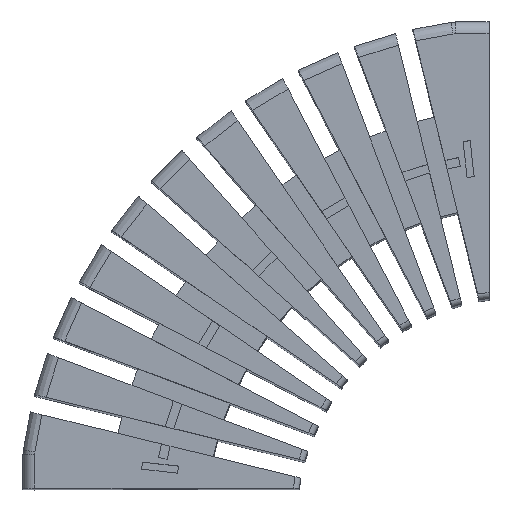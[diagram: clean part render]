
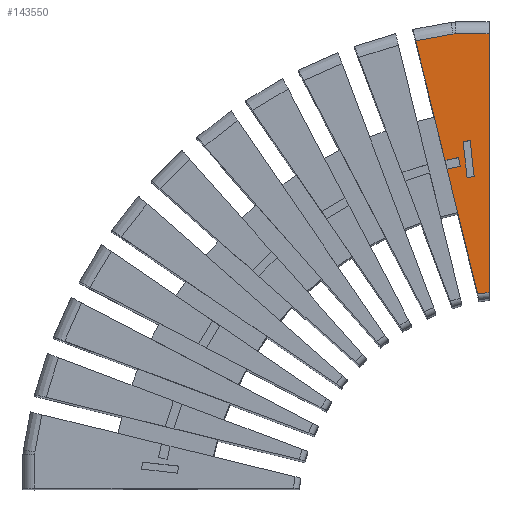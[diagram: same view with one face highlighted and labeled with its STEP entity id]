
A CAD part, top view. The second image highlights one B-rep face of the part: STEP entity #143550.
In plain terms, the highlighted free-form (B-spline) face has degree [1, 1] with [2, 2] control points.
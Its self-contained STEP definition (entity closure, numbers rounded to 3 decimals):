
#22220 = CARTESIAN_POINT ('', (76.72, 32.747, 187.44));
#22230 = VERTEX_POINT ('', #22220);
#22520 = CARTESIAN_POINT ('', (71.564, 53.837, 187.44));
#22530 = VERTEX_POINT ('', #22520);
#22540 = CARTESIAN_POINT ('', (76.72, 32.747, 187.44));
#22550 = CARTESIAN_POINT ('', (71.564, 53.837, 187.44));
#22560 = B_SPLINE_CURVE_WITH_KNOTS ('', 1, (#22540, #22550), .UNSPECIFIED., .F., .U., (2, 2), (4.021, 4.484), .UNSPECIFIED.);
#22570 = EDGE_CURVE ('', #22230, #22530, #22560, .T.);
#22730 = CARTESIAN_POINT ('', (71.207, 55.295, 187.44));
#22740 = VERTEX_POINT ('', #22730);
#22800 = CARTESIAN_POINT ('', (66.28, 75.452, 187.44));
#22810 = VERTEX_POINT ('', #22800);
#22820 = CARTESIAN_POINT ('', (71.207, 55.295, 187.44));
#22830 = CARTESIAN_POINT ('', (66.28, 75.452, 187.44));
#22840 = B_SPLINE_CURVE_WITH_KNOTS ('', 1, (#22820, #22830), .UNSPECIFIED., .F., .U., (2, 2), (4.516, 4.957), .UNSPECIFIED.);
#22850 = EDGE_CURVE ('', #22740, #22810, #22840, .T.);
#27040 = CARTESIAN_POINT ('', (78.648, 76.648, 187.44));
#27050 = VERTEX_POINT ('', #27040);
#27400 = CARTESIAN_POINT ('', (78.648, 33.005, 187.44));
#27410 = VERTEX_POINT ('', #27400);
#27420 = CARTESIAN_POINT ('', (78.648, 76.648, 187.44));
#27430 = CARTESIAN_POINT ('', (78.648, 33.005, 187.44));
#27440 = B_SPLINE_CURVE_WITH_KNOTS ('', 1, (#27420, #27430), .UNSPECIFIED., .F., .U., (2, 2), (2.043, 2.978), .UNSPECIFIED.);
#27450 = EDGE_CURVE ('', #27050, #27410, #27440, .T.);
#138030 = CARTESIAN_POINT ('', (72.986, 76.648, 187.44));
#138040 = VERTEX_POINT ('', #138030);
#138110 = CARTESIAN_POINT ('', (72.986, 76.648, 187.44));
#138120 = CARTESIAN_POINT ('', (78.648, 76.648, 187.44));
#138130 = B_SPLINE_CURVE_WITH_KNOTS ('', 1, (#138110, #138120), .UNSPECIFIED., .F., .U., (2, 2), (0., 5.662), .UNSPECIFIED.);
#138140 = EDGE_CURVE ('', #138040, #27050, #138130, .T.);
#138340 = CARTESIAN_POINT ('', (72.551, 76.616, 187.44));
#138350 = VERTEX_POINT ('', #138340);
#138420 = CARTESIAN_POINT ('', (72.551, 76.616, 187.44));
#138430 = CARTESIAN_POINT ('', (72.607, 76.625, 187.44));
#138440 = CARTESIAN_POINT ('', (72.663, 76.631, 187.44));
#138450 = CARTESIAN_POINT ('', (72.719, 76.636, 187.44));
#138460 = CARTESIAN_POINT ('', (72.775, 76.641, 187.44));
#138470 = CARTESIAN_POINT ('', (72.831, 76.645, 187.44));
#138480 = CARTESIAN_POINT ('', (72.888, 76.646, 187.44));
#138490 = CARTESIAN_POINT ('', (72.92, 76.647, 187.44));
#138500 = CARTESIAN_POINT ('', (72.953, 76.648, 187.44));
#138510 = CARTESIAN_POINT ('', (72.986, 76.648, 187.44));
#138520 = B_SPLINE_CURVE_WITH_KNOTS ('', 3, (#138420, #138430, #138440, #138450, #138460, #138470, #138480, #138490, #138500, #138510), .UNSPECIFIED., .F., .U., (4, 3, 3, 4), (0., 0.169, 0.338, 0.436), .UNSPECIFIED.);
#138530 = EDGE_CURVE ('', #138350, #138040, #138520, .T.);
#140680 = CARTESIAN_POINT ('', (66.28, 75.452, 187.44));
#140690 = CARTESIAN_POINT ('', (66.344, 75.466, 187.44));
#140700 = CARTESIAN_POINT ('', (66.409, 75.481, 187.44));
#140710 = CARTESIAN_POINT ('', (66.474, 75.495, 187.44));
#140720 = CARTESIAN_POINT ('', (66.539, 75.51, 187.44));
#140730 = CARTESIAN_POINT ('', (66.604, 75.524, 187.44));
#140740 = CARTESIAN_POINT ('', (66.669, 75.539, 187.44));
#140750 = CARTESIAN_POINT ('', (66.799, 75.567, 187.44));
#140760 = CARTESIAN_POINT ('', (66.928, 75.596, 187.44));
#140770 = CARTESIAN_POINT ('', (67.058, 75.624, 187.44));
#140780 = CARTESIAN_POINT ('', (67.318, 75.68, 187.44));
#140790 = CARTESIAN_POINT ('', (67.578, 75.734, 187.44));
#140800 = CARTESIAN_POINT ('', (67.839, 75.788, 187.44));
#140810 = CARTESIAN_POINT ('', (68.359, 75.895, 187.44));
#140820 = CARTESIAN_POINT ('', (68.882, 75.997, 187.44));
#140830 = CARTESIAN_POINT ('', (69.404, 76.094, 187.44));
#140840 = CARTESIAN_POINT ('', (70.449, 76.288, 187.44));
#140850 = CARTESIAN_POINT ('', (71.499, 76.462, 187.44));
#140860 = CARTESIAN_POINT ('', (72.551, 76.616, 187.44));
#140870 = B_SPLINE_CURVE_WITH_KNOTS ('', 3, (#140680, #140690, #140700, #140710, #140720, #140730, #140740, #140750, #140760, #140770, #140780, #140790, #140800, #140810, #140820, #140830, #140840, #140850, #140860), .UNSPECIFIED., .F., .U., (4, 3, 3, 3, 3, 3, 4), (3.505, 3.704, 3.904, 4.302, 5.1, 6.694, 9.884), .UNSPECIFIED.);
#140880 = EDGE_CURVE ('', #22810, #138350, #140870, .T.);
#142180 = CARTESIAN_POINT ('', (73.486, 55.78, 187.44));
#142190 = VERTEX_POINT ('', #142180);
#142250 = CARTESIAN_POINT ('', (71.207, 55.295, 187.44));
#142260 = CARTESIAN_POINT ('', (73.486, 55.78, 187.44));
#142270 = B_SPLINE_CURVE_WITH_KNOTS ('', 1, (#142250, #142260), .UNSPECIFIED., .F., .U., (2, 2), (0.406, 1.), .UNSPECIFIED.);
#142280 = EDGE_CURVE ('', #22740, #142190, #142270, .T.);
#142460 = CARTESIAN_POINT ('', (73.799, 54.313, 187.44));
#142470 = VERTEX_POINT ('', #142460);
#142530 = CARTESIAN_POINT ('', (73.486, 55.78, 187.44));
#142540 = CARTESIAN_POINT ('', (73.799, 54.313, 187.44));
#142550 = B_SPLINE_CURVE_WITH_KNOTS ('', 1, (#142530, #142540), .UNSPECIFIED., .F., .U., (2, 2), (0., 1.), .UNSPECIFIED.);
#142560 = EDGE_CURVE ('', #142190, #142470, #142550, .T.);
#142890 = CARTESIAN_POINT ('', (73.799, 54.313, 187.44));
#142900 = CARTESIAN_POINT ('', (71.564, 53.837, 187.44));
#142910 = B_SPLINE_CURVE_WITH_KNOTS ('', 1, (#142890, #142900), .UNSPECIFIED., .F., .U., (2, 2), (0., 0.583), .UNSPECIFIED.);
#142920 = EDGE_CURVE ('', #142470, #22530, #142910, .T.);
#143040 = ORIENTED_EDGE ('', *, *, #22570, .F.);
#143050 = CARTESIAN_POINT ('', (78.648, 33.005, 187.44));
#143060 = CARTESIAN_POINT ('', (76.72, 32.747, 187.44));
#143070 = B_SPLINE_CURVE_WITH_KNOTS ('', 1, (#143050, #143060), .UNSPECIFIED., .F., .U., (2, 2), (1.973, 3.918), .UNSPECIFIED.);
#143080 = EDGE_CURVE ('', #27410, #22230, #143070, .T.);
#143090 = ORIENTED_EDGE ('', *, *, #143080, .F.);
#143100 = ORIENTED_EDGE ('', *, *, #27450, .F.);
#143110 = ORIENTED_EDGE ('', *, *, #138140, .F.);
#143120 = ORIENTED_EDGE ('', *, *, #138530, .F.);
#143130 = ORIENTED_EDGE ('', *, *, #140880, .F.);
#143140 = ORIENTED_EDGE ('', *, *, #22850, .F.);
#143150 = ORIENTED_EDGE ('', *, *, #142280, .T.);
#143160 = ORIENTED_EDGE ('', *, *, #142560, .T.);
#143170 = ORIENTED_EDGE ('', *, *, #142920, .T.);
#143180 = EDGE_LOOP ('', (#143040, #143090, #143100, #143110, #143120, #143130, #143140, #143150, #143160, #143170));
#143190 = FACE_OUTER_BOUND ('', #143180, .T.);
#143200 = CARTESIAN_POINT ('', (75.459, 58.623, 187.44));
#143210 = VERTEX_POINT ('', #143200);
#143220 = CARTESIAN_POINT ('', (76.134, 52.56, 187.44));
#143230 = VERTEX_POINT ('', #143220);
#143240 = CARTESIAN_POINT ('', (75.459, 58.623, 187.44));
#143250 = CARTESIAN_POINT ('', (76.134, 52.56, 187.44));
#143260 = B_SPLINE_CURVE_WITH_KNOTS ('', 1, (#143240, #143250), .UNSPECIFIED., .F., .U., (2, 2), (0.123, 0.877), .UNSPECIFIED.);
#143270 = EDGE_CURVE ('', #143210, #143230, #143260, .T.);
#143280 = ORIENTED_EDGE ('', *, *, #143270, .T.);
#143290 = CARTESIAN_POINT ('', (74.941, 52.428, 187.44));
#143300 = VERTEX_POINT ('', #143290);
#143310 = CARTESIAN_POINT ('', (74.941, 52.428, 187.44));
#143320 = CARTESIAN_POINT ('', (76.134, 52.56, 187.44));
#143330 = B_SPLINE_CURVE_WITH_KNOTS ('', 1, (#143310, #143320), .UNSPECIFIED., .F., .U., (2, 2), (0., 1.), .UNSPECIFIED.);
#143340 = EDGE_CURVE ('', #143300, #143230, #143330, .T.);
#143350 = ORIENTED_EDGE ('', *, *, #143340, .F.);
#143360 = CARTESIAN_POINT ('', (74.266, 58.49, 187.44));
#143370 = VERTEX_POINT ('', #143360);
#143380 = CARTESIAN_POINT ('', (74.266, 58.49, 187.44));
#143390 = CARTESIAN_POINT ('', (74.941, 52.428, 187.44));
#143400 = B_SPLINE_CURVE_WITH_KNOTS ('', 1, (#143380, #143390), .UNSPECIFIED., .F., .U., (2, 2), (0.123, 0.877), .UNSPECIFIED.);
#143410 = EDGE_CURVE ('', #143370, #143300, #143400, .T.);
#143420 = ORIENTED_EDGE ('', *, *, #143410, .F.);
#143430 = CARTESIAN_POINT ('', (75.459, 58.623, 187.44));
#143440 = CARTESIAN_POINT ('', (74.266, 58.49, 187.44));
#143450 = B_SPLINE_CURVE_WITH_KNOTS ('', 1, (#143430, #143440), .UNSPECIFIED., .F., .U., (2, 2), (0., 1.), .UNSPECIFIED.);
#143460 = EDGE_CURVE ('', #143210, #143370, #143450, .T.);
#143470 = ORIENTED_EDGE ('', *, *, #143460, .F.);
#143480 = EDGE_LOOP ('', (#143280, #143350, #143420, #143470));
#143490 = FACE_BOUND ('', #143480, .T.);
#143500 = CARTESIAN_POINT ('', (23.5, 110.734, 187.44));
#143510 = CARTESIAN_POINT ('', (125.572, 110.734, 187.44));
#143520 = CARTESIAN_POINT ('', (23.5, 8.663, 187.44));
#143530 = CARTESIAN_POINT ('', (125.572, 8.663, 187.44));
#143540 = B_SPLINE_SURFACE_WITH_KNOTS ('', 1, 1, ((#143500, #143510), (#143520, #143530)), .UNSPECIFIED., .F., .F., .U., (2, 2), (2, 2), (0., 1.), (0., 1.), .UNSPECIFIED.);
#143550 = ADVANCED_FACE ('', (#143190, #143490), #143540, .T.);
